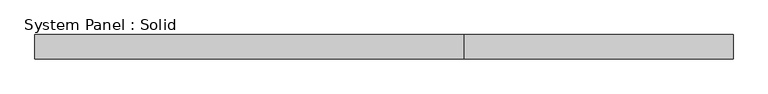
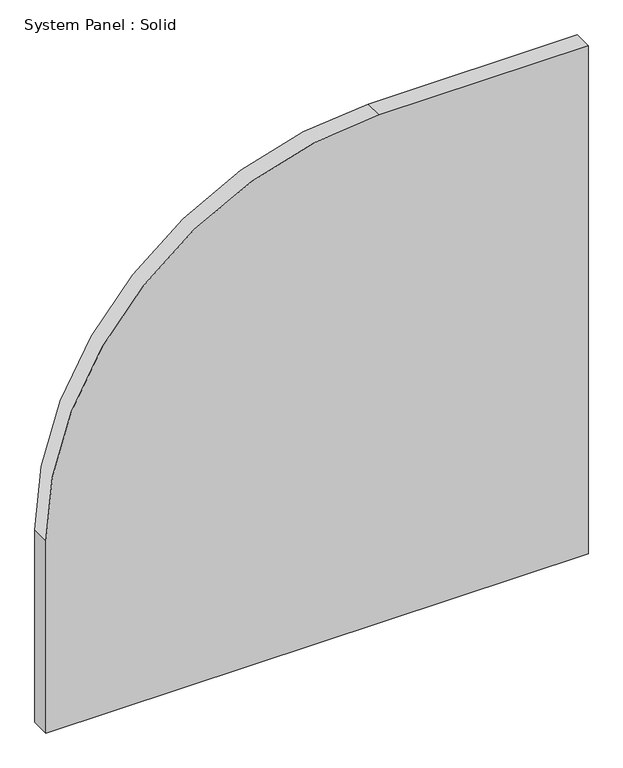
"""IFC4 building model written with IfcOpenShell, lengths in millimetres: plate geometry, System Panel : Solid."""

from ifc_helpers import new_model, si_unit, point, frame, frame_2d, origin, place, context, project, spatial, polyline, circle_curve, trimmed, segment, composite_curve, outline, extrude, source, transform, mapped, element, save


def system_panel_solid_d1304e09(model_context):
    return source(origin(), model_context, "Body", "SweptSolid", [
        extrude(outline(composite_curve([segment(polyline([(0.0, -500.0000002), (0.0, 500.0000002), (990.0, 500.0000002), (990.0, 114.9999998)]), True, "CONTINUOUS"), segment(trimmed(circle_curve(frame_2d((375.0, 114.9999998)), 615.0), [point((990.0, 114.9999998))], [point((375.0, -500.0000002))], False, "CARTESIAN"), True, "CONTINUOUS"), segment(polyline([(375.0, -500.0000002), (0.0, -500.0000002)]), True, "CONTINUOUS")], self_intersect=False)), frame((0.0, -2.5, 0.0), z_axis=(0.0, 1.0, 0.0), x_axis=(0.0, 0.0, 1.0)), (0.0, 0.0, 1.0), 35.0),
    ])


if __name__ == "__main__":
    model = new_model("IFC4")
    model_context = context("Model", 3, world=origin())
    ifc_project = project(units=[si_unit("LENGTHUNIT", "METRE", prefix="MILLI")], contexts=[model_context])
    site = spatial("IfcSite", under=ifc_project)
    building = spatial("IfcBuilding", under=site)
    placement = place(None, origin())
    system_panel_solid_shape = system_panel_solid_d1304e09(model_context)
    element("IfcPlate", 1, ObjectType="System Panel : Solid", at=placement, inside=building, context=model_context, shape_type="MappedRepresentation", body=[
        mapped(system_panel_solid_shape, transform((0.0, 0.0, 0.0), x_axis=(1.0, 0.0, 0.0), y_axis=(0.0, 1.0, 0.0), z_axis=(0.0, 0.0, 1.0))),
    ])
    save(model, "model.ifc")
